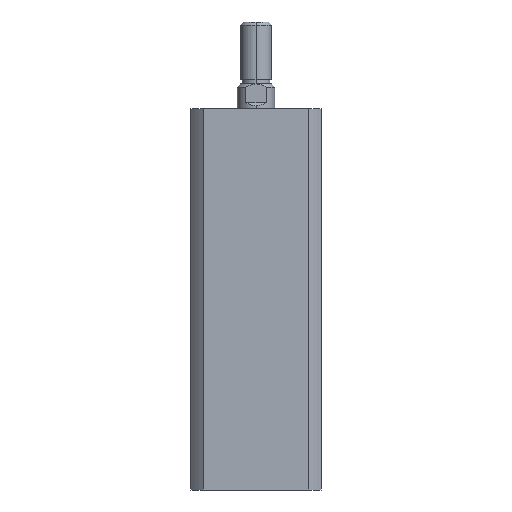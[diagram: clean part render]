
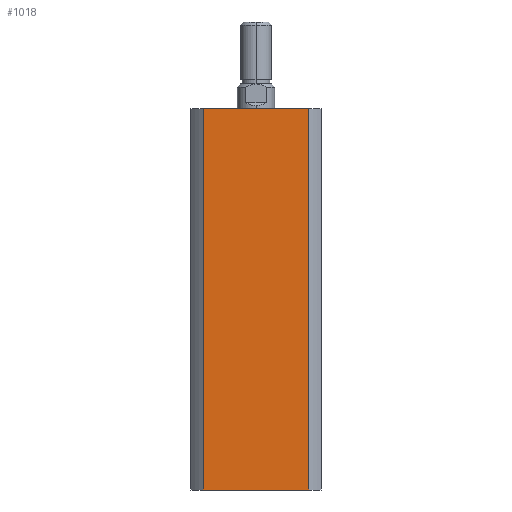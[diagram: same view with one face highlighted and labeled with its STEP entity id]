
A CAD part, left-side view. The second image highlights one B-rep face of the part: STEP entity #1018.
In plain terms, the highlighted planar face has unit normal (-1, 0, 0).
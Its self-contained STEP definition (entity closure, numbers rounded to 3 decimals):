
#325 = EDGE_LOOP ( 'NONE', ( #2204, #2205, #2206, #2207 ) ) ;
#1018 = ADVANCED_FACE ( 'NONE', ( #2001 ), #5135, .F. ) ;
#1474 = DIRECTION ( 'NONE',  ( 0., -1., 0. ) ) ;
#1478 = CARTESIAN_POINT ( 'NONE',  ( -21., 21., 0. ) ) ;
#1876 = VERTEX_POINT ( 'NONE', #4137 ) ;
#1877 = VERTEX_POINT ( 'NONE', #4138 ) ;
#1880 = VERTEX_POINT ( 'NONE', #4141 ) ;
#1901 = VERTEX_POINT ( 'NONE', #4162 ) ;
#2001 = FACE_OUTER_BOUND ( 'NONE', #325, .T. ) ;
#2204 = ORIENTED_EDGE ( 'NONE', *, *, #4833, .F. ) ;
#2205 = ORIENTED_EDGE ( 'NONE', *, *, #4825, .F. ) ;
#2206 = ORIENTED_EDGE ( 'NONE', *, *, #4834, .F. ) ;
#2207 = ORIENTED_EDGE ( 'NONE', *, *, #4787, .T. ) ;
#2498 = DIRECTION ( 'NONE',  ( 0., -1., 0. ) ) ;
#2504 = CARTESIAN_POINT ( 'NONE',  ( -21., 21., 123. ) ) ;
#2523 = CARTESIAN_POINT ( 'NONE',  ( -21., -16.971, 123. ) ) ;
#2524 = DIRECTION ( 'NONE',  ( 0., 0., -1. ) ) ;
#2525 = CARTESIAN_POINT ( 'NONE',  ( -21., 16.971, 123. ) ) ;
#2526 = DIRECTION ( 'NONE',  ( 0., 0., 1. ) ) ;
#3025 = LINE ( 'NONE', #1478, #3027 ) ;
#3027 = VECTOR ( 'NONE', #1474, 1000. ) ;
#3065 = LINE ( 'NONE', #2504, #3070 ) ;
#3070 = VECTOR ( 'NONE', #2498, 1000. ) ;
#3081 = LINE ( 'NONE', #2523, #3084 ) ;
#3083 = LINE ( 'NONE', #2525, #3086 ) ;
#3084 = VECTOR ( 'NONE', #2524, 1000. ) ;
#3086 = VECTOR ( 'NONE', #2526, 1000. ) ;
#4137 = CARTESIAN_POINT ( 'NONE',  ( -21., 16.971, 123. ) ) ;
#4138 = CARTESIAN_POINT ( 'NONE',  ( -21., 16.971, 0. ) ) ;
#4141 = CARTESIAN_POINT ( 'NONE',  ( -21., -16.971, 0. ) ) ;
#4162 = CARTESIAN_POINT ( 'NONE',  ( -21., -16.971, 123. ) ) ;
#4679 = AXIS2_PLACEMENT_3D ( 'NONE', #5131, #5137, #5138 ) ;
#4787 = EDGE_CURVE ( 'NONE', #1877, #1880, #3025, .T. ) ;
#4825 = EDGE_CURVE ( 'NONE', #1876, #1901, #3065, .T. ) ;
#4833 = EDGE_CURVE ( 'NONE', #1901, #1880, #3081, .T. ) ;
#4834 = EDGE_CURVE ( 'NONE', #1877, #1876, #3083, .T. ) ;
#5131 = CARTESIAN_POINT ( 'NONE',  ( -21., 21., 123. ) ) ;
#5135 = PLANE ( 'NONE',  #4679 ) ;
#5137 = DIRECTION ( 'NONE',  ( 1., 0., 0. ) ) ;
#5138 = DIRECTION ( 'NONE',  ( 0., 1., 0. ) ) ;
